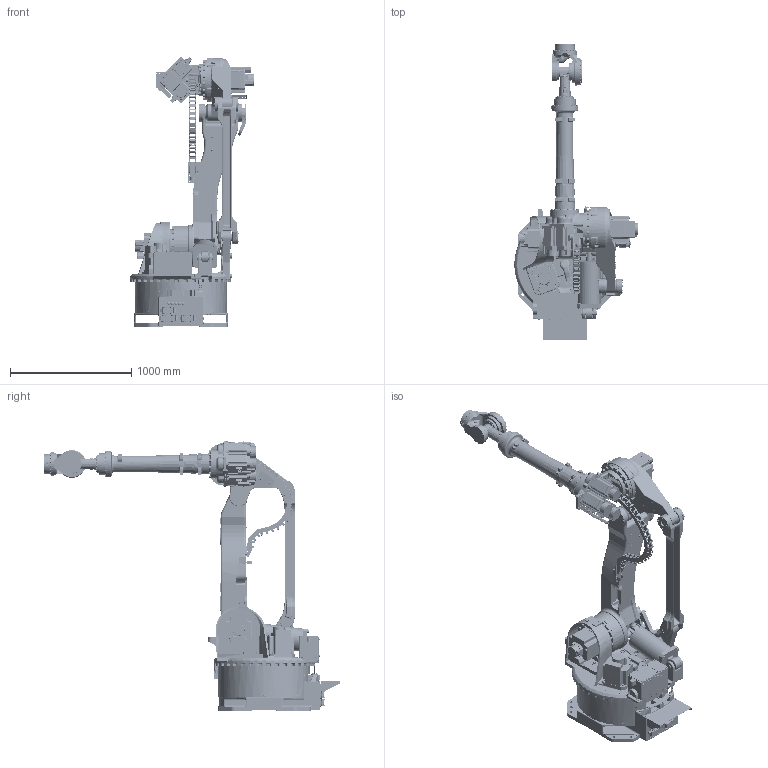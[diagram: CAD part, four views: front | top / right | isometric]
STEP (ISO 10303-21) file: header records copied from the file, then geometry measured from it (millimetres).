
FILE_DESCRIPTION(('CATIA V5 STEP Exchange','CAx-IF Rec.Pracs.--- Composite Materials ---3.4---2017-06-13'),'2;1');
FILE_NAME('D:\モデリング\☆☆☆STEP\ZX\22.04.04_ZX_ASSY_軽量化\Part\Part\step\ZX165U_ZX130S\ZX130S\ZX130S-B001.stp','2022-05-13T03:40:25+00:00',('none'),('none'),'CATIA Version 5-6 Release 2020 SP4 HF11','CATIA V5 STEP AP203 v2','none');
FILE_SCHEMA(('CONFIG_CONTROL_DESIGN'));
Products named in the file (1): ZX130S-B001
Assembly tree (12 placements, depth 2):
  ZX130S-B001
    #57
    #50192
    #164395
    #212014
    #288700
    #299903
    #308662
    #312138
    #345227
    #356858
    #360075
    #360806
Bounding box: 1017.97 x 2440 x 2228.9 mm (x, y, z)
Volume: 360469115.6 mm3; surface area: 14869802.5 mm2
Topology: 19 solids, 20 shells, 10693 faces, 28871 edges, 18504 vertices
Faces by surface type: cylinder 4302, plane 3955, bspline 811, torus 762, cone 302, sphere 243, revolution 208, extrusion 110
Entity records: 396680 total; most frequent: CARTESIAN_POINT 158160, ORIENTED_EDGE 56898, DIRECTION 35229, EDGE_CURVE 28449, VERTEX_POINT 18496, AXIS2_PLACEMENT_3D 15398, VECTOR 13569, LINE 13459
